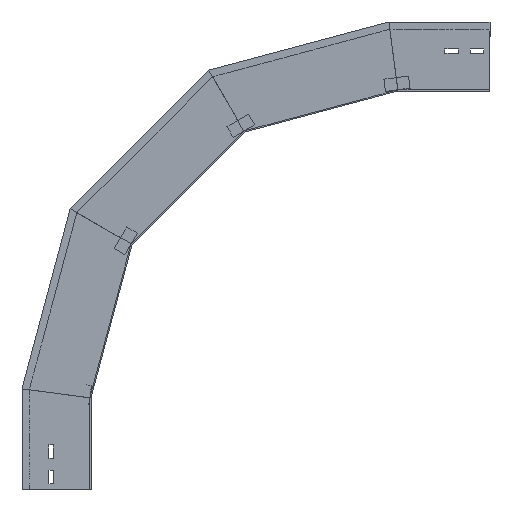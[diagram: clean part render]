
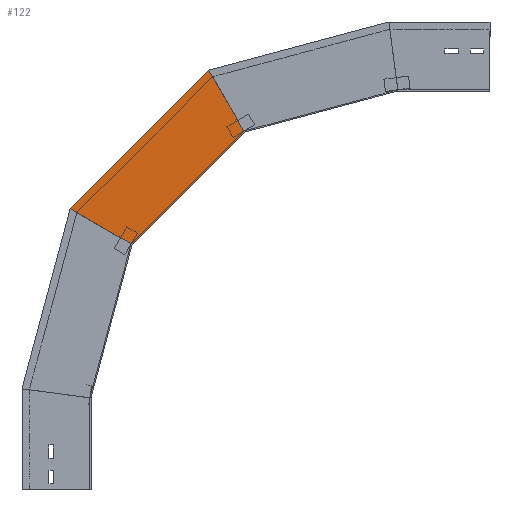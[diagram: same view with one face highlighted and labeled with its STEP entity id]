
A CAD part, left-side view. The second image highlights one B-rep face of the part: STEP entity #122.
In plain terms, the highlighted planar face has unit normal (-1, 0, 0) as drawn and (1, 0, 0) by its records, which use the part's own axes.
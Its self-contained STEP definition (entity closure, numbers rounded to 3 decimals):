
#104 = LINE ( 'NONE', #951, #1873 ) ;
#108 = CARTESIAN_POINT ( 'NONE',  ( 0., 33.831, 458.409 ) ) ;
#122 = ADVANCED_FACE ( 'NONE', ( #823 ), #703, .T. ) ;
#126 = VECTOR ( 'NONE', #350, 1000. ) ;
#139 = DIRECTION ( 'NONE',  ( 1., 0., 0. ) ) ;
#288 = ORIENTED_EDGE ( 'NONE', *, *, #339, .T. ) ;
#317 = VERTEX_POINT ( 'NONE', #1078 ) ;
#339 = EDGE_CURVE ( 'NONE', #1332, #317, #1755, .T. ) ;
#350 = DIRECTION ( 'NONE',  ( 0., -0.5, -0.866 ) ) ;
#369 = VERTEX_POINT ( 'NONE', #108 ) ;
#387 = ORIENTED_EDGE ( 'NONE', *, *, #1093, .F. ) ;
#561 = DIRECTION ( 'NONE',  ( 0., -0.866, -0.5 ) ) ;
#647 = ORIENTED_EDGE ( 'NONE', *, *, #839, .F. ) ;
#703 = PLANE ( 'NONE',  #1288 ) ;
#783 = EDGE_LOOP ( 'NONE', ( #1042, #288, #647, #387 ) ) ;
#801 = VECTOR ( 'NONE', #1744, 1000. ) ;
#823 = FACE_OUTER_BOUND ( 'NONE', #783, .T. ) ;
#839 = EDGE_CURVE ( 'NONE', #1749, #317, #104, .T. ) ;
#844 = CARTESIAN_POINT ( 'NONE',  ( 0., -43.517, 376.657 ) ) ;
#951 = CARTESIAN_POINT ( 'NONE',  ( 0., -43.517, 376.657 ) ) ;
#1003 = CARTESIAN_POINT ( 'NONE',  ( 0., 36.033, 456.207 ) ) ;
#1042 = ORIENTED_EDGE ( 'NONE', *, *, #1681, .T. ) ;
#1078 = CARTESIAN_POINT ( 'NONE',  ( 0., -250.175, 583.315 ) ) ;
#1093 = EDGE_CURVE ( 'NONE', #369, #1749, #1617, .T. ) ;
#1131 = VECTOR ( 'NONE', #561, 1000. ) ;
#1139 = CARTESIAN_POINT ( 'NONE',  ( 0., -128.762, 364.536 ) ) ;
#1168 = CARTESIAN_POINT ( 'NONE',  ( 0., -191.941, 684.18 ) ) ;
#1248 = DIRECTION ( 'NONE',  ( 0., -0.707, 0.707 ) ) ;
#1277 = DIRECTION ( 'NONE',  ( 0., 0., -1. ) ) ;
#1288 = AXIS2_PLACEMENT_3D ( 'NONE', #844, #139, #1277 ) ;
#1332 = VERTEX_POINT ( 'NONE', #1168 ) ;
#1602 = LINE ( 'NONE', #1003, #801 ) ;
#1617 = LINE ( 'NONE', #1139, #1131 ) ;
#1648 = CARTESIAN_POINT ( 'NONE',  ( 0., -67.034, 400.175 ) ) ;
#1681 = EDGE_CURVE ( 'NONE', #369, #1332, #1602, .T. ) ;
#1744 = DIRECTION ( 'NONE',  ( 0., -0.707, 0.707 ) ) ;
#1745 = CARTESIAN_POINT ( 'NONE',  ( 0., -287.996, 517.807 ) ) ;
#1749 = VERTEX_POINT ( 'NONE', #1648 ) ;
#1755 = LINE ( 'NONE', #1745, #126 ) ;
#1873 = VECTOR ( 'NONE', #1248, 1000. ) ;
